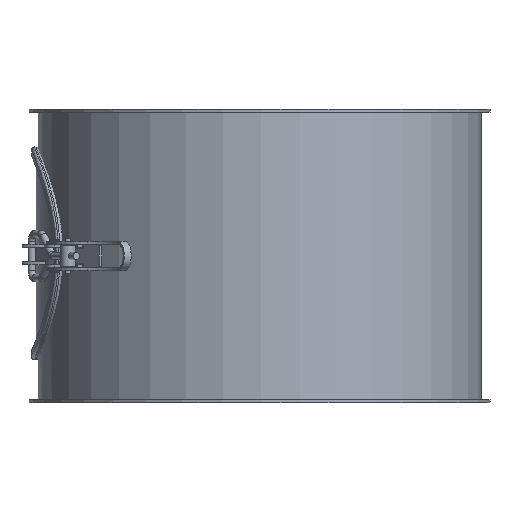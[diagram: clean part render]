
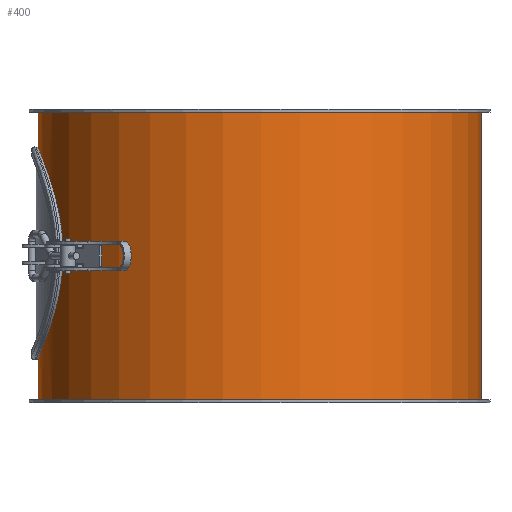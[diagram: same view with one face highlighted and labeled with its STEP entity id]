
A CAD part, front view. The second image highlights one B-rep face of the part: STEP entity #400.
In plain terms, the highlighted cylindrical face has radius 151 mm (diameter 302 mm), a full revolution.
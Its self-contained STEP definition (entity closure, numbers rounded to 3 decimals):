
#143=CARTESIAN_POINT('',(151.0,0.,198.0));
#144=VERTEX_POINT('',#143);
#145=CARTESIAN_POINT('',(0.0,0.0,198.0));
#146=DIRECTION('',(0.0,0.0,-1.0));
#147=DIRECTION('',(-1.0,0.0,0.0));
#148=AXIS2_PLACEMENT_3D('',#145,#146,#147);
#149=CIRCLE('',#148,151.0);
#150=EDGE_CURVE('',#144,#144,#149,.T.);
#191=CARTESIAN_POINT('',(-151.0,0.,2.0));
#192=VERTEX_POINT('',#191);
#193=CARTESIAN_POINT('',(0.0,0.0,2.0));
#194=DIRECTION('',(0.0,0.0,1.0));
#195=DIRECTION('',(-1.0,0.0,0.0));
#196=AXIS2_PLACEMENT_3D('',#193,#194,#195);
#197=CIRCLE('',#196,151.0);
#198=EDGE_CURVE('',#192,#192,#197,.T.);
#281=CARTESIAN_POINT('',(-139.624,-57.5,100.0));
#282=VERTEX_POINT('',#281);
#283=CARTESIAN_POINT('',(-139.624,-57.5,100.0));
#284=CARTESIAN_POINT('',(-139.624,-57.5,96.348));
#285=CARTESIAN_POINT('',(-139.771,-57.147,92.585));
#286=CARTESIAN_POINT('',(-140.364,-55.673,85.126));
#287=CARTESIAN_POINT('',(-140.81,-54.553,81.429));
#288=CARTESIAN_POINT('',(-141.916,-51.608,74.358));
#289=CARTESIAN_POINT('',(-142.575,-49.781,70.979));
#290=CARTESIAN_POINT('',(-143.976,-45.573,64.737));
#291=CARTESIAN_POINT('',(-144.715,-43.192,61.874));
#292=CARTESIAN_POINT('',(-146.131,-38.128,56.81));
#293=CARTESIAN_POINT('',(-146.859,-35.266,54.429));
#294=CARTESIAN_POINT('',(-148.219,-29.024,50.22));
#295=CARTESIAN_POINT('',(-148.85,-25.643,48.392));
#296=CARTESIAN_POINT('',(-149.897,-18.569,45.446));
#297=CARTESIAN_POINT('',(-150.313,-14.871,44.326));
#298=CARTESIAN_POINT('',(-150.864,-7.411,42.853));
#299=CARTESIAN_POINT('',(-151.0,-3.649,42.5));
#300=CARTESIAN_POINT('',(-151.0,3.649,42.5));
#301=CARTESIAN_POINT('',(-150.864,7.411,42.853));
#302=CARTESIAN_POINT('',(-150.313,14.871,44.326));
#303=CARTESIAN_POINT('',(-149.897,18.569,45.446));
#304=CARTESIAN_POINT('',(-148.85,25.643,48.392));
#305=CARTESIAN_POINT('',(-148.219,29.024,50.22));
#306=CARTESIAN_POINT('',(-146.859,35.266,54.429));
#307=CARTESIAN_POINT('',(-146.131,38.128,56.81));
#308=CARTESIAN_POINT('',(-144.715,43.192,61.874));
#309=CARTESIAN_POINT('',(-143.976,45.573,64.737));
#310=CARTESIAN_POINT('',(-142.575,49.781,70.979));
#311=CARTESIAN_POINT('',(-141.916,51.608,74.358));
#312=CARTESIAN_POINT('',(-140.81,54.553,81.429));
#313=CARTESIAN_POINT('',(-140.364,55.673,85.126));
#314=CARTESIAN_POINT('',(-139.771,57.147,92.585));
#315=CARTESIAN_POINT('',(-139.624,57.5,96.348));
#316=CARTESIAN_POINT('',(-139.624,57.5,103.652));
#317=CARTESIAN_POINT('',(-139.771,57.147,107.415));
#318=CARTESIAN_POINT('',(-140.364,55.673,114.874));
#319=CARTESIAN_POINT('',(-140.81,54.553,118.571));
#320=CARTESIAN_POINT('',(-141.916,51.608,125.642));
#321=CARTESIAN_POINT('',(-142.575,49.781,129.021));
#322=CARTESIAN_POINT('',(-143.976,45.573,135.263));
#323=CARTESIAN_POINT('',(-144.715,43.192,138.126));
#324=CARTESIAN_POINT('',(-146.131,38.128,143.19));
#325=CARTESIAN_POINT('',(-146.859,35.266,145.571));
#326=CARTESIAN_POINT('',(-148.219,29.024,149.78));
#327=CARTESIAN_POINT('',(-148.85,25.643,151.608));
#328=CARTESIAN_POINT('',(-149.897,18.569,154.554));
#329=CARTESIAN_POINT('',(-150.313,14.871,155.674));
#330=CARTESIAN_POINT('',(-150.864,7.411,157.147));
#331=CARTESIAN_POINT('',(-151.0,3.649,157.5));
#332=CARTESIAN_POINT('',(-151.0,-3.649,157.5));
#333=CARTESIAN_POINT('',(-150.864,-7.411,157.147));
#334=CARTESIAN_POINT('',(-150.313,-14.871,155.674));
#335=CARTESIAN_POINT('',(-149.897,-18.569,154.554));
#336=CARTESIAN_POINT('',(-148.85,-25.643,151.608));
#337=CARTESIAN_POINT('',(-148.219,-29.024,149.78));
#338=CARTESIAN_POINT('',(-146.859,-35.266,145.571));
#339=CARTESIAN_POINT('',(-146.131,-38.128,143.19));
#340=CARTESIAN_POINT('',(-144.715,-43.192,138.126));
#341=CARTESIAN_POINT('',(-143.976,-45.573,135.263));
#342=CARTESIAN_POINT('',(-142.575,-49.781,129.021));
#343=CARTESIAN_POINT('',(-141.916,-51.608,125.642));
#344=CARTESIAN_POINT('',(-140.81,-54.553,118.571));
#345=CARTESIAN_POINT('',(-140.364,-55.673,114.874));
#346=CARTESIAN_POINT('',(-139.771,-57.147,107.415));
#347=CARTESIAN_POINT('',(-139.624,-57.5,103.652));
#348=CARTESIAN_POINT('',(-139.624,-57.5,100.0));
#349=B_SPLINE_CURVE_WITH_KNOTS('',3,(#283,#284,#285,#286,#287,#288,#289,#290,#291,#292,#293,#294,#295,#296,#297,#298,#299,#300,#301,#302,#303,#304,#305,#306,#307,#308,#309,#310,#311,#312,#313,#314,#315,#316,#317,#318,#319,#320,#321,#322,#323,#324,#325,#326,#327,#328,#329,#330,#331,#332,#333,#334,#335,#336,#337,#338,#339,#340,#341,#342,#343,#344,#345,#346,#347,#348),.UNSPECIFIED.,.T.,.U.,(4,2,2,2,2,2,2,2,2,2,2,2,2,2,2,2,2,2,2,2,2,2,2,2,2,2,2,2,2,2,2,2,4),(0.0,1.096,2.191,3.287,4.382,5.477,6.571,7.666,8.76,9.855,10.95,12.044,13.139,14.234,15.33,16.425,17.521,18.617,19.712,20.808,21.903,22.998,24.092,25.187,26.281,27.376,28.471,29.565,30.66,31.755,32.851,33.946,35.042),.UNSPECIFIED.);
#350=EDGE_CURVE('',#282,#282,#349,.T.);
#386=CARTESIAN_POINT('',(0.0,0.0,0.0));
#387=DIRECTION('',(0.0,0.0,1.0));
#388=DIRECTION('',(-1.0,0.0,0.0));
#389=AXIS2_PLACEMENT_3D('',#386,#387,#388);
#390=CYLINDRICAL_SURFACE('',#389,151.0);
#391=ORIENTED_EDGE('',*,*,#150,.T.);
#392=EDGE_LOOP('',(#391));
#393=FACE_OUTER_BOUND('',#392,.T.);
#394=ORIENTED_EDGE('',*,*,#198,.T.);
#395=EDGE_LOOP('',(#394));
#396=FACE_BOUND('',#395,.T.);
#397=ORIENTED_EDGE('',*,*,#350,.T.);
#398=EDGE_LOOP('',(#397));
#399=FACE_BOUND('',#398,.T.);
#400=ADVANCED_FACE('',(#393,#396,#399),#390,.T.);
